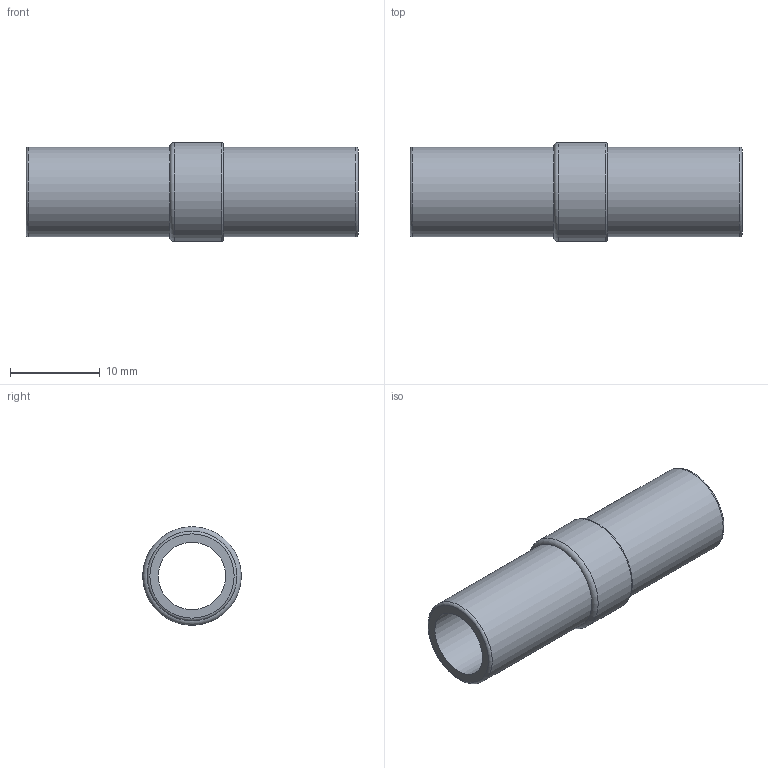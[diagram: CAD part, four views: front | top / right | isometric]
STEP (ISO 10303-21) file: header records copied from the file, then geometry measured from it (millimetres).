
FILE_DESCRIPTION((''),'2;1');
FILE_NAME('E:\2012年度板ﾃﾞｰﾀ\CHIYODA 3D-CAD DATA (Inventor 11)\TOUCH CONNECTOR FIVE (Inventor 11)\[23] JOINT\[04] FR10-10J FR10-10JW.stp','2012-03-21T16:36:30',('kazuhiro.t'),(''),'Autodesk Inventor 11','Autodesk Inventor 11','');
FILE_SCHEMA(('AUTOMOTIVE_DESIGN { 1 0 10303 214 1 1 1 1 }'));
Length unit declared in the file: millimetre
Products named in the file (1): [04] FR10-10J FR10-10JW
Bounding box: 37 x 11 x 11 mm (x, y, z)
Volume: 1367 mm3; surface area: 2136.1 mm2
Topology: 1 solids, 1 shells, 11 faces, 20 edges, 12 vertices
Faces by surface type: torus 4, cylinder 4, plane 3
Full cylindrical faces by diameter (mm): 7.5 x1, 10 x2, 11 x1
Entity records: 251 total; most frequent: DIRECTION 46, CARTESIAN_POINT 34, AXIS2_PLACEMENT_3D 23, ORIENTED_EDGE 22, EDGE_LOOP 22, VERTEX_POINT 11, CIRCLE 11, EDGE_CURVE 11
